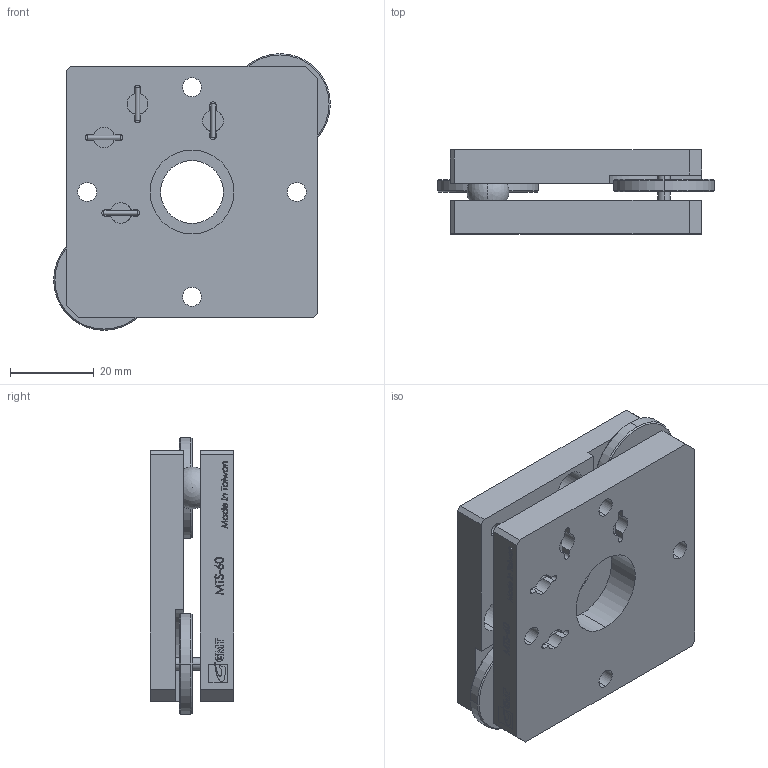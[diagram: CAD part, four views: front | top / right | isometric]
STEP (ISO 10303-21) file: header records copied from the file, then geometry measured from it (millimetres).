
FILE_DESCRIPTION (( 'STEP AP203' ), '1' );
FILE_NAME ('MTS-60.STEP', '2008-07-17T13:18:17', ( '陳志豪' ), ( '高明鐵企業股份有限公司' ), 'SwSTEP 2.0', 'SolidWorks 2007', '' );
FILE_SCHEMA (( 'CONFIG_CONTROL_DESIGN' ));
Length unit declared in the file: millimetre
Products named in the file (1): MTS-60
Bounding box: 66 x 20 x 66 mm (x, y, z)
Volume: 50846.9 mm3; surface area: 22598.4 mm2
Topology: 5 solids, 5 shells, 575 faces, 1532 edges, 1017 vertices
Faces by surface type: plane 310, cylinder 152, bspline 95, torus 8, cone 8, sphere 2
Entity records: 23061 total; most frequent: CARTESIAN_POINT 8893, ORIENTED_EDGE 3054, DIRECTION 2656, EDGE_CURVE 1527, VERTEX_POINT 1014, VECTOR 978, LINE 978, AXIS2_PLACEMENT_3D 839
